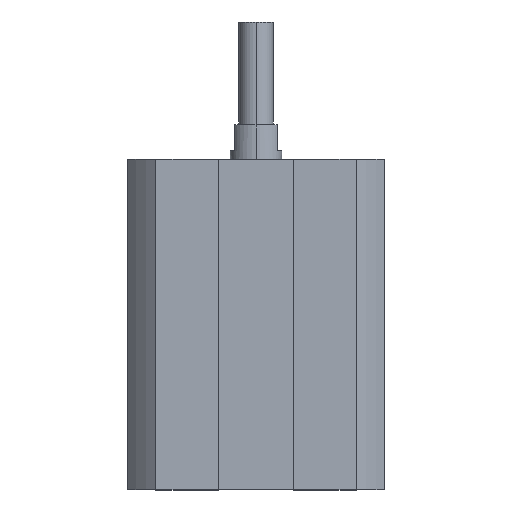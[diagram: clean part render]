
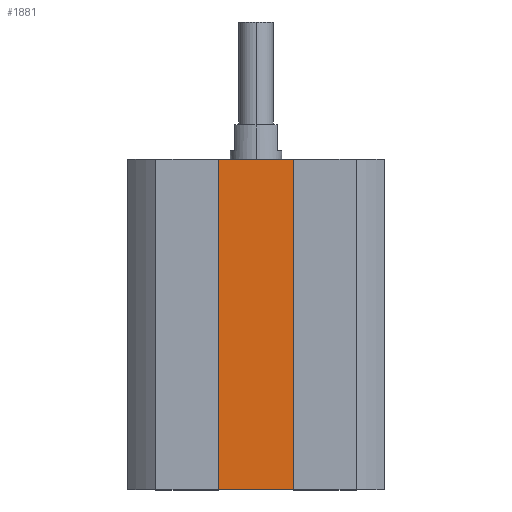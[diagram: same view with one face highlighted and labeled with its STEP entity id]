
A CAD part, top view. The second image highlights one B-rep face of the part: STEP entity #1881.
In plain terms, the highlighted planar face has unit normal (0, 0, 1).
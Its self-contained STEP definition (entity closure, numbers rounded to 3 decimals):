
#43 = EDGE_CURVE ( 'NONE', #1864, #1684, #2321, .T. ) ;
#60 = DIRECTION ( 'NONE',  ( 0., 1., 0. ) ) ;
#131 = AXIS2_PLACEMENT_3D ( 'NONE', #675, #2295, #1929 ) ;
#276 = ORIENTED_EDGE ( 'NONE', *, *, #43, .T. ) ;
#299 = LINE ( 'NONE', #409, #747 ) ;
#338 = EDGE_CURVE ( 'NONE', #354, #1985, #299, .T. ) ;
#354 = VERTEX_POINT ( 'NONE', #1325 ) ;
#367 = DIRECTION ( 'NONE',  ( 1., 0., 0. ) ) ;
#409 = CARTESIAN_POINT ( 'NONE',  ( -4.4, -38.5, 10. ) ) ;
#541 = ORIENTED_EDGE ( 'NONE', *, *, #1767, .T. ) ;
#675 = CARTESIAN_POINT ( 'NONE',  ( 0., -38.5, 10. ) ) ;
#747 = VECTOR ( 'NONE', #60, 1000. ) ;
#768 = CARTESIAN_POINT ( 'NONE',  ( 4.4, 0., 10. ) ) ;
#770 = EDGE_CURVE ( 'NONE', #1985, #1684, #1159, .T. ) ;
#1058 = ORIENTED_EDGE ( 'NONE', *, *, #770, .F. ) ;
#1110 = CARTESIAN_POINT ( 'NONE',  ( 4.4, -38.5, 10. ) ) ;
#1145 = PLANE ( 'NONE',  #131 ) ;
#1159 = LINE ( 'NONE', #1984, #1784 ) ;
#1188 = LINE ( 'NONE', #1722, #1631 ) ;
#1265 = ORIENTED_EDGE ( 'NONE', *, *, #338, .F. ) ;
#1325 = CARTESIAN_POINT ( 'NONE',  ( -4.4, -38.5, 10. ) ) ;
#1627 = DIRECTION ( 'NONE',  ( 0., 1., 0. ) ) ;
#1631 = VECTOR ( 'NONE', #2252, 1000. ) ;
#1684 = VERTEX_POINT ( 'NONE', #768 ) ;
#1722 = CARTESIAN_POINT ( 'NONE',  ( 0., -38.5, 10. ) ) ;
#1751 = CARTESIAN_POINT ( 'NONE',  ( -4.4, 0., 10. ) ) ;
#1767 = EDGE_CURVE ( 'NONE', #354, #1864, #1188, .T. ) ;
#1784 = VECTOR ( 'NONE', #367, 1000. ) ;
#1859 = FACE_OUTER_BOUND ( 'NONE', #1978, .T. ) ;
#1864 = VERTEX_POINT ( 'NONE', #1939 ) ;
#1881 = ADVANCED_FACE ( 'NONE', ( #1859 ), #1145, .T. ) ;
#1929 = DIRECTION ( 'NONE',  ( 1., 0., 0. ) ) ;
#1939 = CARTESIAN_POINT ( 'NONE',  ( 4.4, -38.5, 10. ) ) ;
#1978 = EDGE_LOOP ( 'NONE', ( #1058, #1265, #541, #276 ) ) ;
#1984 = CARTESIAN_POINT ( 'NONE',  ( 0., 0., 10. ) ) ;
#1985 = VERTEX_POINT ( 'NONE', #1751 ) ;
#2010 = VECTOR ( 'NONE', #1627, 1000. ) ;
#2252 = DIRECTION ( 'NONE',  ( 1., 0., 0. ) ) ;
#2295 = DIRECTION ( 'NONE',  ( 0., 0., 1. ) ) ;
#2321 = LINE ( 'NONE', #1110, #2010 ) ;
